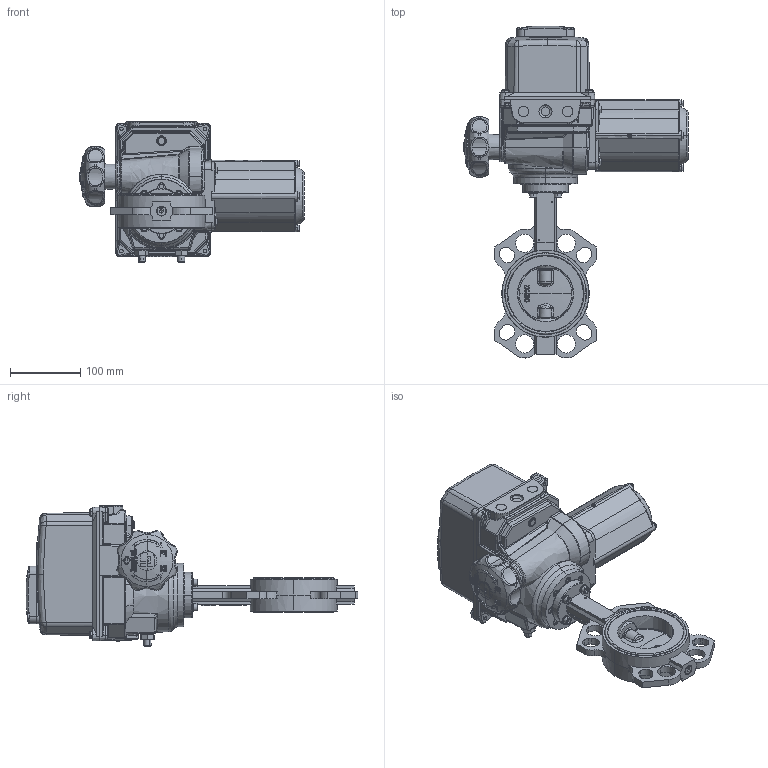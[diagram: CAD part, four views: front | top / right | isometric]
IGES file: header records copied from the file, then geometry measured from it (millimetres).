
Start section: SolidWorks IGES file using NURBS representation for surfaces
Global section: file name: H:\BE BIBLIOTHEQUE 3D\Projet_Biblio3D_2016\FSK\VPI\VPI-B04\VPI-B04 DN80.Igs; native system: SolidWorks 2014; preprocessor: SolidWorks 2014; author: a.cartier; date: 160929.163729; units: millimetre
Bounding box: 319.25 x 472.24 x 199.8 mm (x, y, z)
Volume: 5437488.3 mm3; surface area: 358127.1 mm2
Topology: 14 solids, 14 shells, 2754 faces, 7197 edges, 4505 vertices
Faces by surface type: bspline 2754
